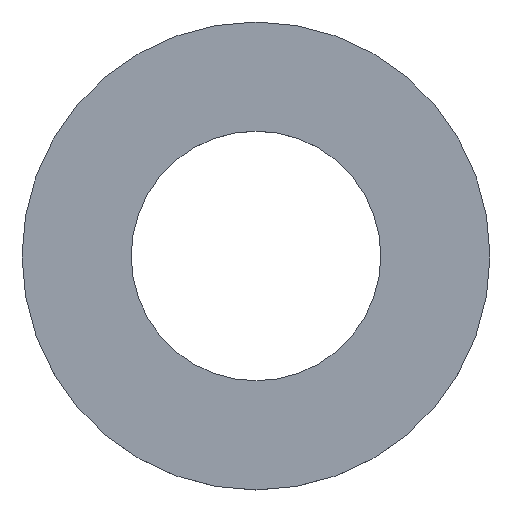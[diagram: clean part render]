
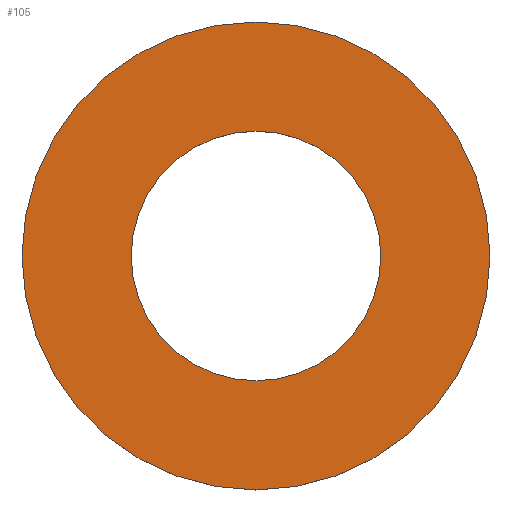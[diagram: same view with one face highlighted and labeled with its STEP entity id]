
A CAD part, top view. The second image highlights one B-rep face of the part: STEP entity #105.
In plain terms, the highlighted planar face has unit normal (0, 0, 1).
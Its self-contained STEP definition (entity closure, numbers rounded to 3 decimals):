
#21 = EDGE_CURVE('',#22,#22,#24,.T.);
#22 = VERTEX_POINT('',#23);
#23 = CARTESIAN_POINT('',(4.03,0.,-4.2));
#24 = SURFACE_CURVE('',#25,(#30,#42),.PCURVE_S1.);
#25 = CIRCLE('',#26,4.03);
#26 = AXIS2_PLACEMENT_3D('',#27,#28,#29);
#27 = CARTESIAN_POINT('',(0.,0.,-4.2));
#28 = DIRECTION('',(0.,0.,1.));
#29 = DIRECTION('',(1.,0.,-0.));
#30 = PCURVE('',#31,#36);
#31 = CYLINDRICAL_SURFACE('',#32,4.03);
#32 = AXIS2_PLACEMENT_3D('',#33,#34,#35);
#33 = CARTESIAN_POINT('',(0.,0.,-4.55));
#34 = DIRECTION('',(0.,0.,1.));
#35 = DIRECTION('',(1.,0.,-0.));
#36 = DEFINITIONAL_REPRESENTATION('',(#37),#41);
#37 = LINE('',#38,#39);
#38 = CARTESIAN_POINT('',(0.,0.35));
#39 = VECTOR('',#40,1.);
#40 = DIRECTION('',(1.,0.));
#41 = ( GEOMETRIC_REPRESENTATION_CONTEXT(2) 
PARAMETRIC_REPRESENTATION_CONTEXT() REPRESENTATION_CONTEXT('2D SPACE',''
  ) );
#42 = PCURVE('',#43,#48);
#43 = PLANE('',#44);
#44 = AXIS2_PLACEMENT_3D('',#45,#46,#47);
#45 = CARTESIAN_POINT('',(0.,0.,-4.2));
#46 = DIRECTION('',(0.,0.,1.));
#47 = DIRECTION('',(1.,0.,-0.));
#48 = DEFINITIONAL_REPRESENTATION('',(#49),#53);
#49 = CIRCLE('',#50,4.03);
#50 = AXIS2_PLACEMENT_2D('',#51,#52);
#51 = CARTESIAN_POINT('',(0.,0.));
#52 = DIRECTION('',(1.,0.));
#53 = ( GEOMETRIC_REPRESENTATION_CONTEXT(2) 
PARAMETRIC_REPRESENTATION_CONTEXT() REPRESENTATION_CONTEXT('2D SPACE',''
  ) );
#105 = ADVANCED_FACE('',(#106,#109),#43,.T.);
#106 = FACE_BOUND('',#107,.T.);
#107 = EDGE_LOOP('',(#108));
#108 = ORIENTED_EDGE('',*,*,#21,.T.);
#109 = FACE_BOUND('',#110,.T.);
#110 = EDGE_LOOP('',(#111));
#111 = ORIENTED_EDGE('',*,*,#112,.F.);
#112 = EDGE_CURVE('',#113,#113,#115,.T.);
#113 = VERTEX_POINT('',#114);
#114 = CARTESIAN_POINT('',(2.15,0.,-4.2));
#115 = SURFACE_CURVE('',#116,(#121,#128),.PCURVE_S1.);
#116 = CIRCLE('',#117,2.15);
#117 = AXIS2_PLACEMENT_3D('',#118,#119,#120);
#118 = CARTESIAN_POINT('',(0.,0.,-4.2));
#119 = DIRECTION('',(0.,0.,1.));
#120 = DIRECTION('',(1.,0.,-0.));
#121 = PCURVE('',#43,#122);
#122 = DEFINITIONAL_REPRESENTATION('',(#123),#127);
#123 = CIRCLE('',#124,2.15);
#124 = AXIS2_PLACEMENT_2D('',#125,#126);
#125 = CARTESIAN_POINT('',(0.,0.));
#126 = DIRECTION('',(1.,0.));
#127 = ( GEOMETRIC_REPRESENTATION_CONTEXT(2) 
PARAMETRIC_REPRESENTATION_CONTEXT() REPRESENTATION_CONTEXT('2D SPACE',''
  ) );
#128 = PCURVE('',#129,#134);
#129 = CYLINDRICAL_SURFACE('',#130,2.15);
#130 = AXIS2_PLACEMENT_3D('',#131,#132,#133);
#131 = CARTESIAN_POINT('',(0.,0.,-4.56));
#132 = DIRECTION('',(0.,0.,1.));
#133 = DIRECTION('',(1.,0.,-0.));
#134 = DEFINITIONAL_REPRESENTATION('',(#135),#139);
#135 = LINE('',#136,#137);
#136 = CARTESIAN_POINT('',(0.,0.36));
#137 = VECTOR('',#138,1.);
#138 = DIRECTION('',(1.,0.));
#139 = ( GEOMETRIC_REPRESENTATION_CONTEXT(2) 
PARAMETRIC_REPRESENTATION_CONTEXT() REPRESENTATION_CONTEXT('2D SPACE',''
  ) );
